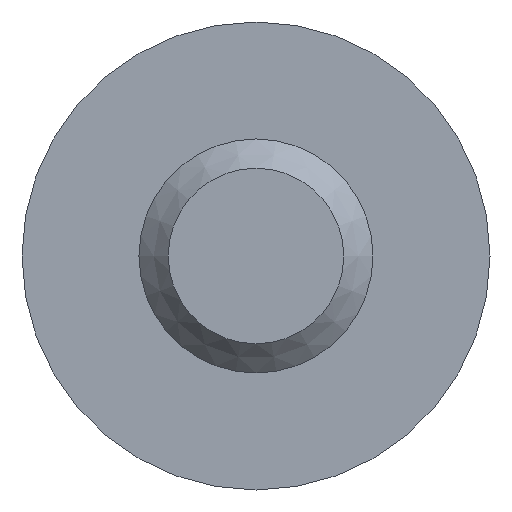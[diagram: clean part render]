
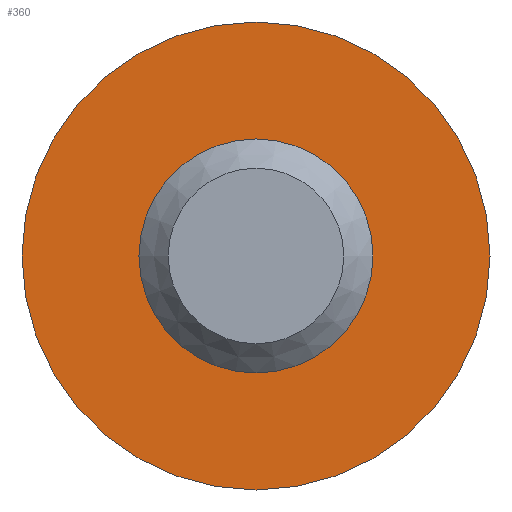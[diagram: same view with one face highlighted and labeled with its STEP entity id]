
A CAD part, left-side view. The second image highlights one B-rep face of the part: STEP entity #360.
In plain terms, the highlighted planar face has unit normal (-1, 0, 0).
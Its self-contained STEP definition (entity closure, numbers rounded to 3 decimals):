
#25=FACE_BOUND('',#128,.T.);
#33=PLANE('',#433);
#101=FACE_OUTER_BOUND('',#127,.T.);
#127=EDGE_LOOP('',(#331));
#128=EDGE_LOOP('',(#332));
#155=CIRCLE('',#429,3.);
#157=CIRCLE('',#434,8.);
#187=VERTEX_POINT('',#685);
#189=VERTEX_POINT('',#694);
#234=EDGE_CURVE('',#187,#187,#155,.T.);
#237=EDGE_CURVE('',#189,#189,#157,.T.);
#331=ORIENTED_EDGE('',*,*,#237,.F.);
#332=ORIENTED_EDGE('',*,*,#234,.T.);
#360=ADVANCED_FACE('',(#101,#25),#33,.T.);
#429=AXIS2_PLACEMENT_3D('',#687,#543,#544);
#433=AXIS2_PLACEMENT_3D('',#693,#552,#553);
#434=AXIS2_PLACEMENT_3D('',#695,#554,#555);
#543=DIRECTION('center_axis',(1.,0.,0.));
#544=DIRECTION('ref_axis',(0.,0.,1.));
#552=DIRECTION('center_axis',(-1.,0.,0.));
#553=DIRECTION('ref_axis',(0.,0.,1.));
#554=DIRECTION('center_axis',(1.,0.,0.));
#555=DIRECTION('ref_axis',(0.,1.,0.));
#685=CARTESIAN_POINT('',(33.,0.,-3.));
#687=CARTESIAN_POINT('Origin',(33.,0.,0.));
#693=CARTESIAN_POINT('Origin',(33.,4.,0.));
#694=CARTESIAN_POINT('',(33.,-8.,0.));
#695=CARTESIAN_POINT('Origin',(33.,0.,0.));
